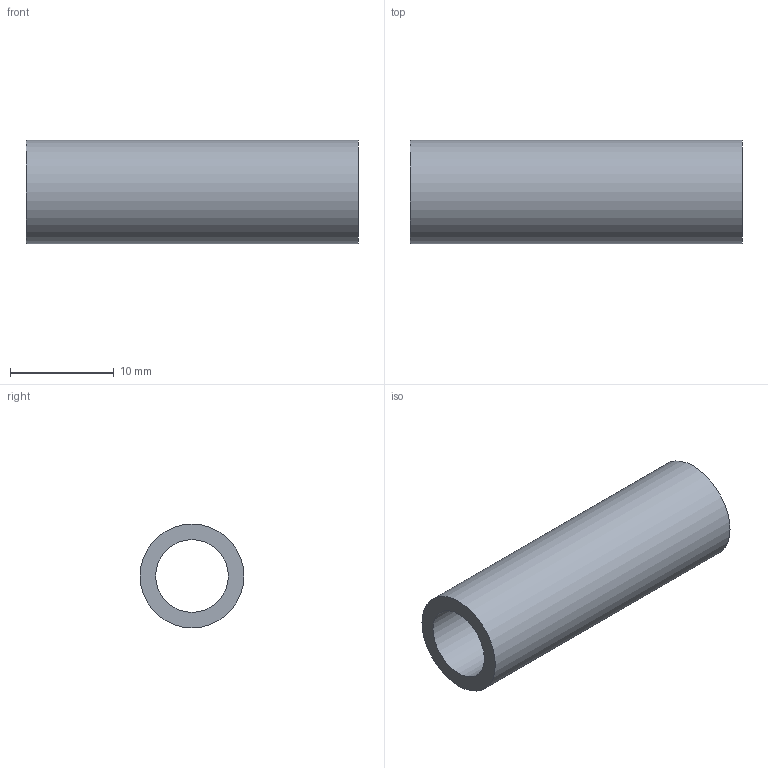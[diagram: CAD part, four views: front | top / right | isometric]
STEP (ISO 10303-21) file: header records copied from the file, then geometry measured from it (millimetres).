
FILE_DESCRIPTION(('Open CASCADE Model'),'2;1');
FILE_NAME('Open CASCADE Shape Model','2026-11-25T12:52:00',('Author'),( 'Open CASCADE'),'Open CASCADE STEP processor 8.0','Open CASCADE 8.0' ,'Unknown');
FILE_SCHEMA(('AP242_MANAGED_MODEL_BASED_3D_ENGINEERING_MIM_LF {1 0 10303 442 1 1 4 }' ));
Length unit declared in the file: millimetre
Products named in the file (1): Guide tube
Bounding box: 32 x 10 x 10 mm (x, y, z)
Volume: 1281.8 mm3; surface area: 1789.1 mm2
Topology: 1 solids, 1 shells, 4 faces, 6 edges, 4 vertices
Faces by surface type: cylinder 2, plane 2
Full cylindrical faces by diameter (mm): 7 x1, 10 x1
Entity records: 195 total; most frequent: DIRECTION 32, CARTESIAN_POINT 27, ORIENTED_EDGE 12, PCURVE 12, DEFINITIONAL_REPRESENTATION 12, LINE 10, VECTOR 10, AXIS2_PLACEMENT_3D 9
